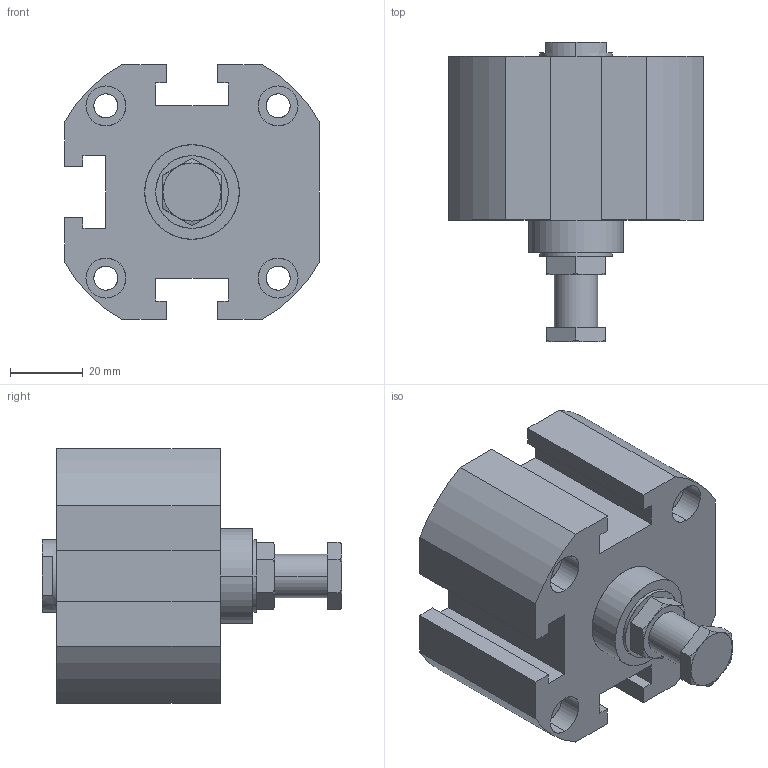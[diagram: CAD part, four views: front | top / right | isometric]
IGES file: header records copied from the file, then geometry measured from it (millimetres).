
Start section: SolidWorks IGES file using analytic representation for surfaces
Global section: file name: C:\Users\Toshiba\Desktop\XGA2-50-10.IGS; native system: SolidWorks 2014; preprocessor: SolidWorks 2014; author: Toshiba; date: 160524.104047; units: millimetre
Bounding box: 70 x 82.5 x 70 mm (x, y, z)
Surface area: 32584.5 mm2 (no closed solid volume)
Topology: 0 solids, 0 shells, 150 faces, 2702 edges, 2696 vertices
Faces by surface type: bspline 80, revolution 70
